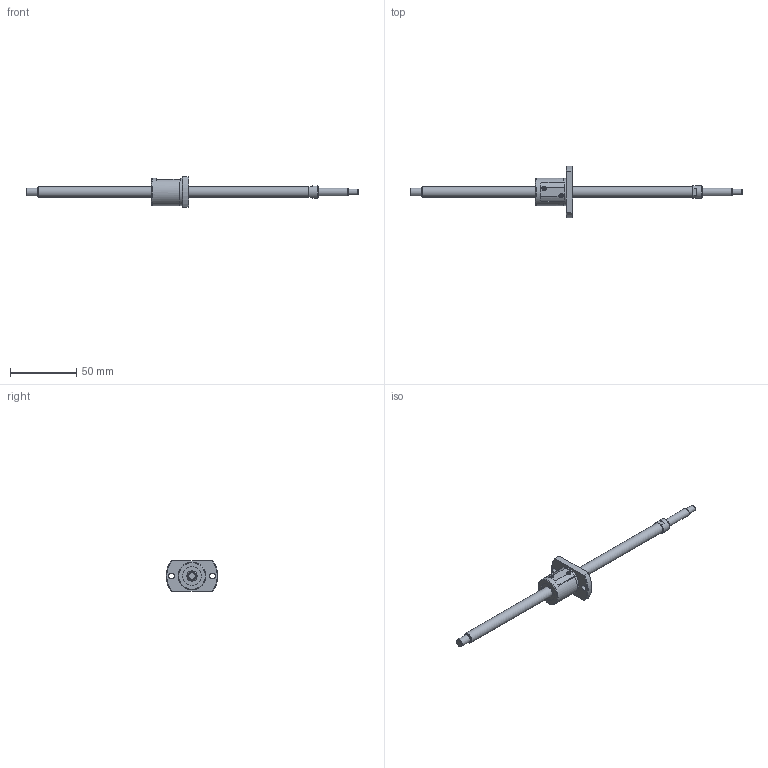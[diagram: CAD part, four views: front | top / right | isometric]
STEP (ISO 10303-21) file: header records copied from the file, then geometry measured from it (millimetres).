
FILE_DESCRIPTION(/* description */ ('STEP AP214'),/* implementation_level */ '2;1');
FILE_NAME(/* name */ 'SG0804-199R250C5C0X(85.5)',/* time_stamp */ '2026-07-21T16:50:43+02:00',/* author */ ('License CC BY-ND 4.0'),/* organization */ ('CADENAS'),/* preprocessor_version */ 'ST-DEVELOPER v20',/* originating_system */ 'PARTsolutions',/* authorisation */ ' ');
FILE_SCHEMA (('AUTOMOTIVE_DESIGN {1 0 10303 214 3 1 1}'));
Length unit declared in the file: millimetre
Products named in the file (3): SG0804-199R250C5C0X(85.5); SG0804-199R250C5C_shaft; SG0804 C5_nut
Assembly tree (2 placements, depth 2):
  SG0804-199R250C5C0X(85.5)
    SG0804-199R250C5C_shaft
    SG0804 C5_nut
Bounding box: 250 x 39 x 23 mm (x, y, z)
Volume: 21892.3 mm3; surface area: 10636.8 mm2
Topology: 2 solids, 2 shells, 75 faces, 182 edges, 119 vertices
Faces by surface type: plane 36, cylinder 24, cone 14, torus 1
Full cylindrical faces by diameter (mm): 4.5 x3, 6 x2, 8 x2, 9.5 x1, 14 x2, 20.5 x1, 21 x1
Entity records: 2117 total; most frequent: CARTESIAN_POINT 396, DIRECTION 358, ORIENTED_EDGE 298, EDGE_CURVE 149, AXIS2_PLACEMENT_3D 149, EDGE_LOOP 112, FACE_BOUND 112, VERTEX_POINT 109
